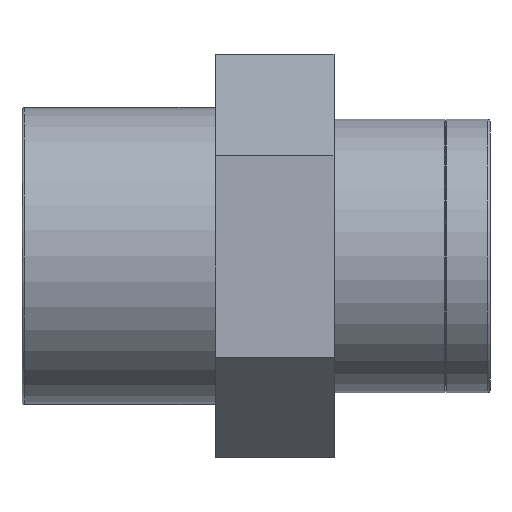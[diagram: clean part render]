
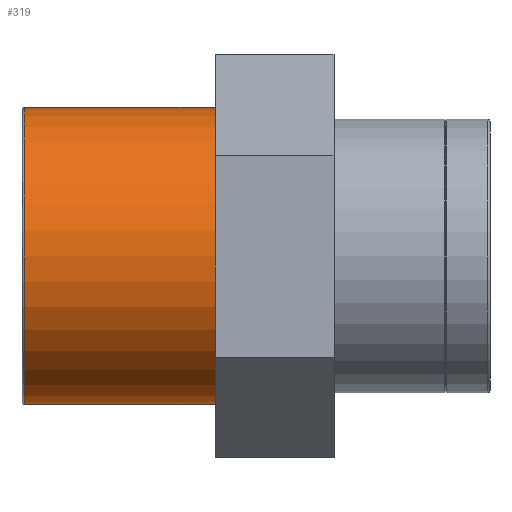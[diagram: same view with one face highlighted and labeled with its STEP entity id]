
A CAD part, front view. The second image highlights one B-rep face of the part: STEP entity #319.
In plain terms, the highlighted cylindrical face has radius 20 mm (diameter 40 mm), a full revolution.
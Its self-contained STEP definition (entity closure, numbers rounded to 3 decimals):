
#56=CYLINDRICAL_SURFACE('',#356,20.);
#80=FACE_BOUND('',#132,.T.);
#98=FACE_OUTER_BOUND('',#131,.T.);
#131=EDGE_LOOP('',(#254));
#132=EDGE_LOOP('',(#255));
#165=CIRCLE('',#355,20.);
#166=CIRCLE('',#357,20.);
#182=VERTEX_POINT('',#509);
#183=VERTEX_POINT('',#512);
#211=EDGE_CURVE('',#182,#182,#165,.T.);
#212=EDGE_CURVE('',#183,#183,#166,.T.);
#254=ORIENTED_EDGE('',*,*,#212,.T.);
#255=ORIENTED_EDGE('',*,*,#211,.F.);
#319=ADVANCED_FACE('',(#98,#80),#56,.T.);
#355=AXIS2_PLACEMENT_3D('',#510,#417,#418);
#356=AXIS2_PLACEMENT_3D('',#511,#419,#420);
#357=AXIS2_PLACEMENT_3D('',#513,#421,#422);
#417=DIRECTION('center_axis',(-1.,0.,0.));
#418=DIRECTION('ref_axis',(0.,1.,0.));
#419=DIRECTION('center_axis',(-1.,0.,0.));
#420=DIRECTION('ref_axis',(0.,-1.,0.));
#421=DIRECTION('center_axis',(-1.,0.,0.));
#422=DIRECTION('ref_axis',(0.,0.,1.));
#509=CARTESIAN_POINT('',(-31.18,-20.,0.));
#510=CARTESIAN_POINT('Origin',(-31.18,0.,0.));
#511=CARTESIAN_POINT('Origin',(-18.5,0.,0.));
#512=CARTESIAN_POINT('',(-5.5,-20.,0.));
#513=CARTESIAN_POINT('Origin',(-5.5,0.,0.));
